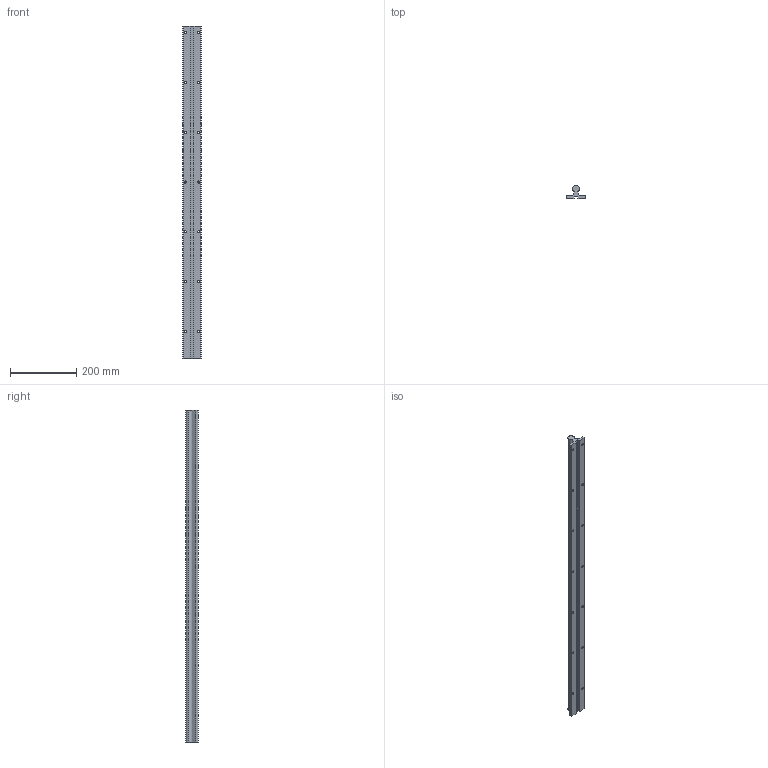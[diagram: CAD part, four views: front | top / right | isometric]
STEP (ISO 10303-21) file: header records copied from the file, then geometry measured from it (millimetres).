
FILE_DESCRIPTION (( 'STEP AP214' ), '1' );
FILE_NAME ('2.6104 Johdeakseli TBR20.STEP', '2024-06-04T06:43:09', ( '' ), ( '' ), 'SwSTEP 2.0', 'SolidWorks 2024', '' );
FILE_SCHEMA (( 'AUTOMOTIVE_DESIGN' ));
Length unit declared in the file: millimetre
Products named in the file (1): 2.6104 Johdeakseli TBR20
Bounding box: 55 x 39 x 1000 mm (x, y, z)
Volume: 854840.6 mm3; surface area: 202120 mm2
Topology: 1 solids, 1 shells, 56 faces, 162 edges, 108 vertices
Faces by surface type: cylinder 41, plane 15
Entity records: 2011 total; most frequent: DIRECTION 358, CARTESIAN_POINT 327, ORIENTED_EDGE 324, EDGE_CURVE 162, AXIS2_PLACEMENT_3D 139, VERTEX_POINT 108, EDGE_LOOP 84, CIRCLE 82
